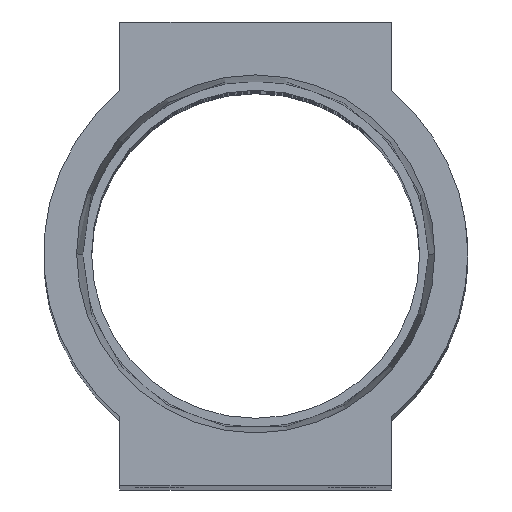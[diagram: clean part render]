
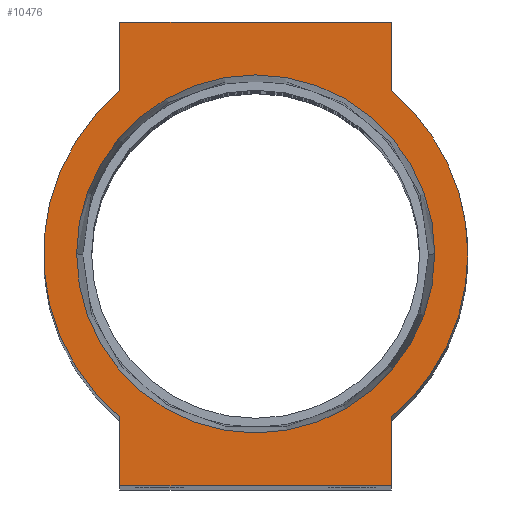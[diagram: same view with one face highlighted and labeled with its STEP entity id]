
A CAD part, top view. The second image highlights one B-rep face of the part: STEP entity #10476.
In plain terms, the highlighted planar face has unit normal (0, 0, 1).
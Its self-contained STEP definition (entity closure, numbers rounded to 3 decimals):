
#125 = AXIS2_PLACEMENT_3D ( 'NONE', #3390, #7224, #9154 ) ;
#216 = CARTESIAN_POINT ( 'NONE',  ( 12., -20.5, 0. ) ) ;
#321 = EDGE_CURVE ( 'NONE', #9479, #9209, #460, .T. ) ;
#408 = EDGE_LOOP ( 'NONE', ( #6948, #7306, #6160, #2660, #5832, #3475, #448, #4448, #9125 ) ) ;
#448 = ORIENTED_EDGE ( 'NONE', *, *, #4686, .T. ) ;
#460 = LINE ( 'NONE', #8020, #10719 ) ;
#548 = DIRECTION ( 'NONE',  ( 0., -1., 0. ) ) ;
#661 = CARTESIAN_POINT ( 'NONE',  ( -12., -20.5, 0. ) ) ;
#916 = AXIS2_PLACEMENT_3D ( 'NONE', #3866, #6877, #2118 ) ;
#942 = CARTESIAN_POINT ( 'NONE',  ( 12., -20.5, 0. ) ) ;
#1153 = VERTEX_POINT ( 'NONE', #5362 ) ;
#1211 = CIRCLE ( 'NONE', #4796, 18.75 ) ;
#1349 = CIRCLE ( 'NONE', #125, 18.75 ) ;
#1432 = DIRECTION ( 'NONE',  ( 1., 0., 0. ) ) ;
#1675 = DIRECTION ( 'NONE',  ( 1., 0., 0. ) ) ;
#2021 = CARTESIAN_POINT ( 'NONE',  ( -12., 14.407, 0. ) ) ;
#2052 = CARTESIAN_POINT ( 'NONE',  ( 12., 14.407, 0. ) ) ;
#2080 = CARTESIAN_POINT ( 'NONE',  ( 0., 0., 0. ) ) ;
#2118 = DIRECTION ( 'NONE',  ( 1., 0., 0. ) ) ;
#2148 = EDGE_CURVE ( 'NONE', #8408, #3614, #11221, .T. ) ;
#2627 = EDGE_CURVE ( 'NONE', #3614, #4546, #6229, .T. ) ;
#2660 = ORIENTED_EDGE ( 'NONE', *, *, #2148, .T. ) ;
#2831 = EDGE_CURVE ( 'NONE', #1153, #7887, #7762, .T. ) ;
#2983 = DIRECTION ( 'NONE',  ( 0., 0., 1. ) ) ;
#3390 = CARTESIAN_POINT ( 'NONE',  ( 0., 0., 0. ) ) ;
#3475 = ORIENTED_EDGE ( 'NONE', *, *, #8277, .T. ) ;
#3581 = ORIENTED_EDGE ( 'NONE', *, *, #2831, .F. ) ;
#3614 = VERTEX_POINT ( 'NONE', #6172 ) ;
#3670 = LINE ( 'NONE', #9326, #5563 ) ;
#3794 = VECTOR ( 'NONE', #3805, 1000. ) ;
#3805 = DIRECTION ( 'NONE',  ( 0., 1., 0. ) ) ;
#3866 = CARTESIAN_POINT ( 'NONE',  ( 0., 0., 0. ) ) ;
#4053 = EDGE_CURVE ( 'NONE', #4406, #7784, #1211, .T. ) ;
#4259 = DIRECTION ( 'NONE',  ( 1., 0., 0. ) ) ;
#4277 = DIRECTION ( 'NONE',  ( 0., -1., 0. ) ) ;
#4365 = VECTOR ( 'NONE', #4277, 1000. ) ;
#4406 = VERTEX_POINT ( 'NONE', #5589 ) ;
#4448 = ORIENTED_EDGE ( 'NONE', *, *, #4053, .T. ) ;
#4546 = VERTEX_POINT ( 'NONE', #7785 ) ;
#4686 = EDGE_CURVE ( 'NONE', #8735, #4406, #11738, .T. ) ;
#4796 = AXIS2_PLACEMENT_3D ( 'NONE', #11913, #5298, #11033 ) ;
#5114 = EDGE_LOOP ( 'NONE', ( #11489, #3581 ) ) ;
#5298 = DIRECTION ( 'NONE',  ( 0., 0., 1. ) ) ;
#5362 = CARTESIAN_POINT ( 'NONE',  ( -15.827, 0., 0. ) ) ;
#5416 = CARTESIAN_POINT ( 'NONE',  ( -12., 20.5, 0. ) ) ;
#5561 = DIRECTION ( 'NONE',  ( 0., 1., 0. ) ) ;
#5563 = VECTOR ( 'NONE', #5561, 1000. ) ;
#5579 = CARTESIAN_POINT ( 'NONE',  ( 12., 20.5, 0. ) ) ;
#5589 = CARTESIAN_POINT ( 'NONE',  ( 12., -14.407, 0. ) ) ;
#5771 = AXIS2_PLACEMENT_3D ( 'NONE', #2080, #11661, #1432 ) ;
#5832 = ORIENTED_EDGE ( 'NONE', *, *, #2627, .T. ) ;
#6026 = CARTESIAN_POINT ( 'NONE',  ( 0., 0., 0. ) ) ;
#6160 = ORIENTED_EDGE ( 'NONE', *, *, #8477, .T. ) ;
#6172 = CARTESIAN_POINT ( 'NONE',  ( -12., -14.407, 0. ) ) ;
#6229 = LINE ( 'NONE', #661, #4365 ) ;
#6399 = DIRECTION ( 'NONE',  ( 0., 0., 1. ) ) ;
#6435 = LINE ( 'NONE', #10046, #12373 ) ;
#6877 = DIRECTION ( 'NONE',  ( 0., 0., 1. ) ) ;
#6948 = ORIENTED_EDGE ( 'NONE', *, *, #9827, .T. ) ;
#7206 = EDGE_CURVE ( 'NONE', #7784, #10457, #1349, .T. ) ;
#7224 = DIRECTION ( 'NONE',  ( 0., 0., 1. ) ) ;
#7306 = ORIENTED_EDGE ( 'NONE', *, *, #321, .T. ) ;
#7461 = CARTESIAN_POINT ( 'NONE',  ( 15.827, 0., 0. ) ) ;
#7762 = CIRCLE ( 'NONE', #9990, 15.827 ) ;
#7784 = VERTEX_POINT ( 'NONE', #11946 ) ;
#7785 = CARTESIAN_POINT ( 'NONE',  ( -12., -20.5, 0. ) ) ;
#7884 = DIRECTION ( 'NONE',  ( 1., 0., 0. ) ) ;
#7887 = VERTEX_POINT ( 'NONE', #7461 ) ;
#8017 = CARTESIAN_POINT ( 'NONE',  ( 0., 0., 0. ) ) ;
#8020 = CARTESIAN_POINT ( 'NONE',  ( -12., 20.5, 0. ) ) ;
#8277 = EDGE_CURVE ( 'NONE', #4546, #8735, #6435, .T. ) ;
#8408 = VERTEX_POINT ( 'NONE', #2021 ) ;
#8477 = EDGE_CURVE ( 'NONE', #9209, #8408, #10199, .T. ) ;
#8522 = AXIS2_PLACEMENT_3D ( 'NONE', #6026, #2983, #7884 ) ;
#8692 = FACE_BOUND ( 'NONE', #5114, .T. ) ;
#8735 = VERTEX_POINT ( 'NONE', #216 ) ;
#9072 = DIRECTION ( 'NONE',  ( -1., 0., 0. ) ) ;
#9112 = CIRCLE ( 'NONE', #8522, 15.827 ) ;
#9125 = ORIENTED_EDGE ( 'NONE', *, *, #7206, .T. ) ;
#9154 = DIRECTION ( 'NONE',  ( 1., 0., 0. ) ) ;
#9209 = VERTEX_POINT ( 'NONE', #9309 ) ;
#9309 = CARTESIAN_POINT ( 'NONE',  ( -12., 20.5, 0. ) ) ;
#9326 = CARTESIAN_POINT ( 'NONE',  ( 12., 20.5, 0. ) ) ;
#9479 = VERTEX_POINT ( 'NONE', #5579 ) ;
#9722 = FACE_OUTER_BOUND ( 'NONE', #408, .T. ) ;
#9827 = EDGE_CURVE ( 'NONE', #10457, #9479, #3670, .T. ) ;
#9956 = VECTOR ( 'NONE', #548, 1000. ) ;
#9990 = AXIS2_PLACEMENT_3D ( 'NONE', #8017, #6399, #4259 ) ;
#10046 = CARTESIAN_POINT ( 'NONE',  ( -12., -20.5, 0. ) ) ;
#10199 = LINE ( 'NONE', #5416, #9956 ) ;
#10457 = VERTEX_POINT ( 'NONE', #2052 ) ;
#10476 = ADVANCED_FACE ( 'NONE', ( #8692, #9722 ), #11565, .T. ) ;
#10719 = VECTOR ( 'NONE', #9072, 1000. ) ;
#10912 = EDGE_CURVE ( 'NONE', #7887, #1153, #9112, .T. ) ;
#11033 = DIRECTION ( 'NONE',  ( 1., 0., 0. ) ) ;
#11221 = CIRCLE ( 'NONE', #5771, 18.75 ) ;
#11489 = ORIENTED_EDGE ( 'NONE', *, *, #10912, .F. ) ;
#11565 = PLANE ( 'NONE',  #916 ) ;
#11661 = DIRECTION ( 'NONE',  ( 0., 0., 1. ) ) ;
#11738 = LINE ( 'NONE', #942, #3794 ) ;
#11913 = CARTESIAN_POINT ( 'NONE',  ( 0., 0., 0. ) ) ;
#11946 = CARTESIAN_POINT ( 'NONE',  ( 18.75, 0., 0. ) ) ;
#12373 = VECTOR ( 'NONE', #1675, 1000. ) ;
